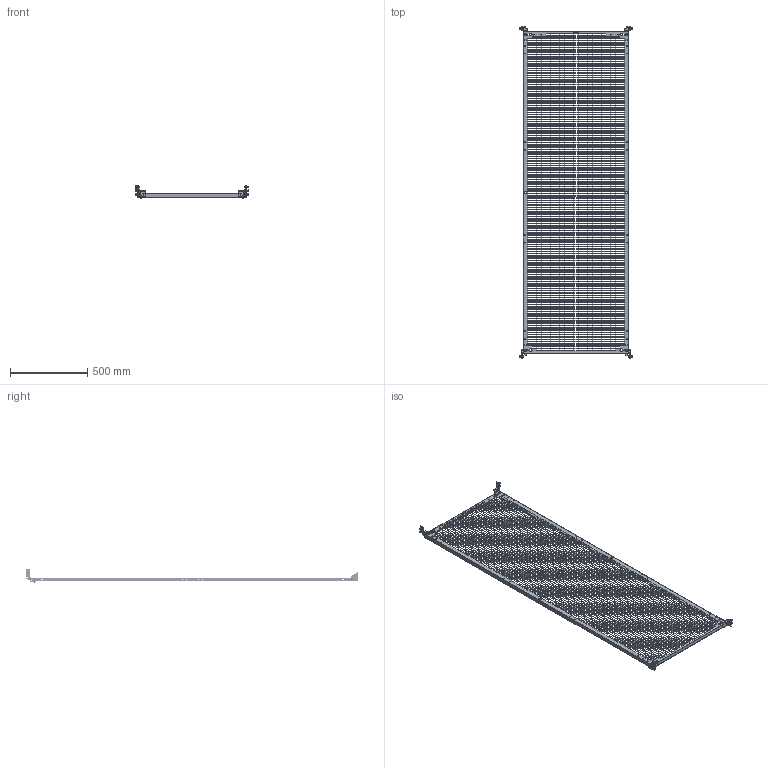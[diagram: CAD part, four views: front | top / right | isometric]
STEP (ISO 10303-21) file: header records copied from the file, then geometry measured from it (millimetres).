
FILE_DESCRIPTION (( 'STEP AP203' ), '1' );
FILE_NAME ('R5NPCEP2280.STEP', '2025-03-26T11:09:32', ( '' ), ( '' ), 'SwSTEP 2.0', 'SolidWorks 2022', '' );
FILE_SCHEMA (( 'CONFIG_CONTROL_DESIGN' ));
Length unit declared in the file: millimetre
Products named in the file (20): RB.2684.00.00.0 СБ_-01; RB.2628.00.00.0_-33; RB.2814.00.01.0; RB.2697.00.00.0; RB.2684.00.01.0_-01; AC00C237; RB.1499.00.03.0; RB.2814.00.00.0 СБ_-01; M6x16 DIN 7985 Torx cl.8,8 Zinc_stright; RB.2709.00.00.0; R5NPCEP2280; M6 MGR-MKO-0625_1,5mm (thread); RB.2684.00.00.0 СБ; RB.2684.00.03.0; 003-006-19 GOST 9833-73; M6x16 DIN 912 HX cl.4,8 Zinc_thread; М6 D87181 Zinc_In a tightened position (1.5 mm); RB.2814.00.01.0_-01; RB.2814.00.00.0 СБ; RB.2684.00.01.0
Assembly tree (43 placements, depth 3):
  R5NPCEP2280
    RB.2628.00.00.0_-33
    RB.2814.00.00.0 СБ_-01
      RB.2814.00.01.0_-01
      M6 MGR-MKO-0625_1,5mm (thread)
    RB.2814.00.00.0 СБ
      RB.2814.00.01.0
      M6 MGR-MKO-0625_1,5mm (thread)
    M6x16 DIN 912 HX cl.4,8 Zinc_thread  x2
    AC00C237  x2
    RB.2684.00.00.0 СБ_-01
      RB.2684.00.01.0_-01
      RB.2684.00.03.0
      RB.1499.00.03.0
      RB.2697.00.00.0
      003-006-19 GOST 9833-73  x2
    RB.2684.00.00.0 СБ
      RB.2684.00.01.0
      RB.2684.00.03.0
      RB.1499.00.03.0
      003-006-19 GOST 9833-73  x2
      RB.2697.00.00.0
    M6x16 DIN 7985 Torx cl.8,8 Zinc_stright  x8
    М6 D87181 Zinc_In a tightened position (1.5 mm)  x8
    RB.2709.00.00.0  x2
Bounding box: 728.3 x 2150.46 x 84.5 mm (x, y, z)
Volume: 2165832 mm3; surface area: 2284340.9 mm2
Topology: 39 solids, 39 shells, 13719 faces, 40402 edges, 26692 vertices
Faces by surface type: plane 12578, cylinder 514, bspline 301, cone 186, torus 132, sphere 8
Full cylindrical faces by diameter (mm): 0.6 x12, 2.3 x4, 2.5 x4, 3.8 x6, 4 x2, 4.2 x4, 4.92 x14, 5 x16, 6 x60, 6.5 x8, 6.7 x2, 7 x12, 7.5 x2, 8 x4, 8.3 x8, 9 x6, 10 x4, 12 x26, 15 x6
Entity records: 420607 total; most frequent: CARTESIAN_POINT 77255, ORIENTED_EDGE 72684, DIRECTION 61143, EDGE_CURVE 36342, VECTOR 35713, LINE 35713, VERTEX_POINT 24296, EDGE_LOOP 18400
